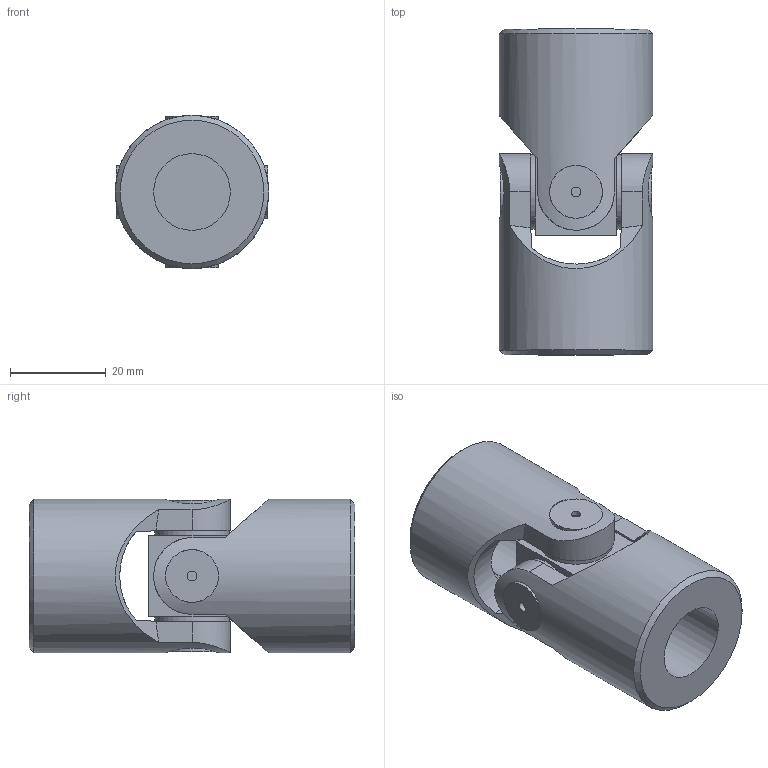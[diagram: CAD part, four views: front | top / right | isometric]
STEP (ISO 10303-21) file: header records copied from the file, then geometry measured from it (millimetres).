
FILE_DESCRIPTION(/* description */ (''),/* implementation_level */ '2;1');
FILE_NAME(/* name */ '\\SRV2016\societa\Stefano\Disegni 3D\Dis. Clienti\0000Catalogo 3D\01Singoli G-GB\SG0S1600.stp',/* time_stamp */ '2021-11-08T16:48:56+01:00',/* author */ ('acquisti'),/* organization */ (''),/* preprocessor_version */ 'ST-DEVELOPER v15.6',/* originating_system */ 'Autodesk Inventor 2015',/* authorisation */ '');
FILE_SCHEMA (('AUTOMOTIVE_DESIGN { 1 0 10303 214 3 1 1 }'));
Length unit declared in the file: millimetre
Products named in the file (3): 1G SFE; 1G MOS; Assieme1
Assembly tree (3 placements, depth 2):
  Assieme1
    1G SFE
    1G MOS  x2
Bounding box: 32 x 68 x 32 mm (x, y, z)
Volume: 37608.5 mm3; surface area: 13690 mm2
Topology: 3 solids, 3 shells, 84 faces, 190 edges, 122 vertices
Faces by surface type: plane 36, cylinder 34, cone 12, torus 2
Full cylindrical faces by diameter (mm): 2 x4, 15.5 x4, 16 x2, 18 x2, 32 x2
Entity records: 1519 total; most frequent: CARTESIAN_POINT 470, DIRECTION 208, ORIENTED_EDGE 184, EDGE_CURVE 92, AXIS2_PLACEMENT_3D 92, EDGE_LOOP 70, VERTEX_POINT 66, FACE_OUTER_BOUND 49
